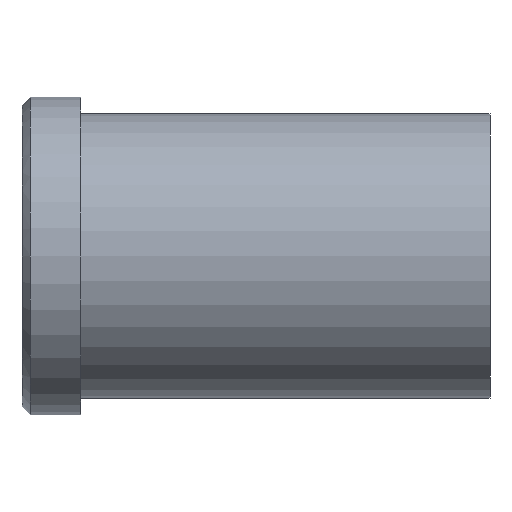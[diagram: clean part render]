
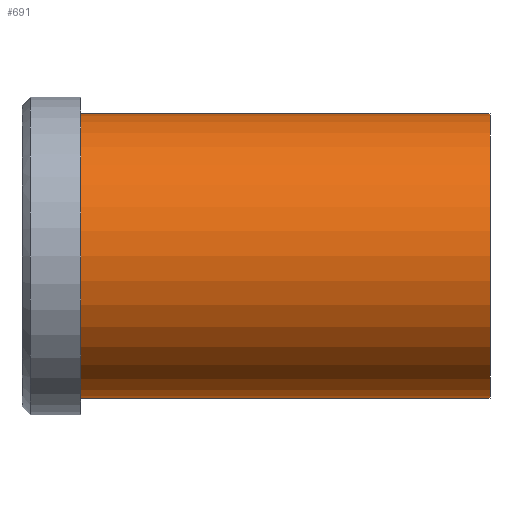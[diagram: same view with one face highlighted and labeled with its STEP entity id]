
A CAD part, front view. The second image highlights one B-rep face of the part: STEP entity #691.
In plain terms, the highlighted cylindrical face has radius 17 mm (diameter 34 mm), a partial arc.
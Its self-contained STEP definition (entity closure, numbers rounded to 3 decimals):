
#501=CARTESIAN_POINT('Vertex',(0.,0.,-17.)) ;
#506=CARTESIAN_POINT('Axis2P3D Location',(0.,0.,0.)) ;
#510=CARTESIAN_POINT('Vertex',(0.,-17.,0.)) ;
#513=CARTESIAN_POINT('Axis2P3D Location',(0.,0.,0.)) ;
#517=CARTESIAN_POINT('Vertex',(0.,0.,17.)) ;
#631=CARTESIAN_POINT('Line Origine',(49.,0.,17.)) ;
#635=CARTESIAN_POINT('Vertex',(49.,0.,17.)) ;
#649=CARTESIAN_POINT('Vertex',(49.,0.,-17.)) ;
#652=CARTESIAN_POINT('Line Origine',(49.,0.,-17.)) ;
#666=CARTESIAN_POINT('Axis2P3D Location',(49.,0.,0.)) ;
#671=CARTESIAN_POINT('Axis2P3D Location',(49.,0.,0.)) ;
#675=CARTESIAN_POINT('Vertex',(49.,-17.,0.)) ;
#678=CARTESIAN_POINT('Axis2P3D Location',(49.,0.,0.)) ;
#507=DIRECTION('Axis2P3D Direction',(1.,0.,-0.)) ;
#514=DIRECTION('Axis2P3D Direction',(1.,0.,-0.)) ;
#632=DIRECTION('Vector Direction',(-1.,0.,0.)) ;
#653=DIRECTION('Vector Direction',(-1.,0.,0.)) ;
#667=DIRECTION('Axis2P3D Direction',(-1.,-0.,-0.)) ;
#668=DIRECTION('Axis2P3D XDirection',(0.,0.,-1.)) ;
#672=DIRECTION('Axis2P3D Direction',(-1.,-0.,-0.)) ;
#679=DIRECTION('Axis2P3D Direction',(-1.,-0.,-0.)) ;
#508=AXIS2_PLACEMENT_3D('Circle Axis2P3D',#506,#507,$) ;
#515=AXIS2_PLACEMENT_3D('Circle Axis2P3D',#513,#514,$) ;
#669=AXIS2_PLACEMENT_3D('Cylinder Axis2P3D',#666,#667,#668) ;
#673=AXIS2_PLACEMENT_3D('Circle Axis2P3D',#671,#672,$) ;
#680=AXIS2_PLACEMENT_3D('Circle Axis2P3D',#678,#679,$) ;
#684=ORIENTED_EDGE('',*,*,#656,.T.) ;
#685=ORIENTED_EDGE('',*,*,#677,.F.) ;
#686=ORIENTED_EDGE('',*,*,#682,.F.) ;
#687=ORIENTED_EDGE('',*,*,#637,.T.) ;
#688=ORIENTED_EDGE('',*,*,#519,.T.) ;
#689=ORIENTED_EDGE('',*,*,#512,.T.) ;
#633=VECTOR('Line Direction',#632,1.) ;
#654=VECTOR('Line Direction',#653,1.) ;
#691=ADVANCED_FACE('353-25X56',(#690),#670,.T.) ;
#509=CIRCLE('generated circle',#508,17.) ;
#516=CIRCLE('generated circle',#515,17.) ;
#674=CIRCLE('generated circle',#673,17.) ;
#681=CIRCLE('generated circle',#680,17.) ;
#670=CYLINDRICAL_SURFACE('generated cylinder',#669,17.) ;
#512=EDGE_CURVE('',#511,#502,#509,.T.) ;
#519=EDGE_CURVE('',#518,#511,#516,.T.) ;
#637=EDGE_CURVE('',#636,#518,#634,.T.) ;
#656=EDGE_CURVE('',#502,#650,#655,.F.) ;
#677=EDGE_CURVE('',#676,#650,#674,.F.) ;
#682=EDGE_CURVE('',#636,#676,#681,.F.) ;
#683=EDGE_LOOP('',(#684,#685,#686,#687,#688,#689)) ;
#690=FACE_OUTER_BOUND('',#683,.T.) ;
#634=LINE('Line',#631,#633) ;
#655=LINE('Line',#652,#654) ;
#502=VERTEX_POINT('',#501) ;
#511=VERTEX_POINT('',#510) ;
#518=VERTEX_POINT('',#517) ;
#636=VERTEX_POINT('',#635) ;
#650=VERTEX_POINT('',#649) ;
#676=VERTEX_POINT('',#675) ;
